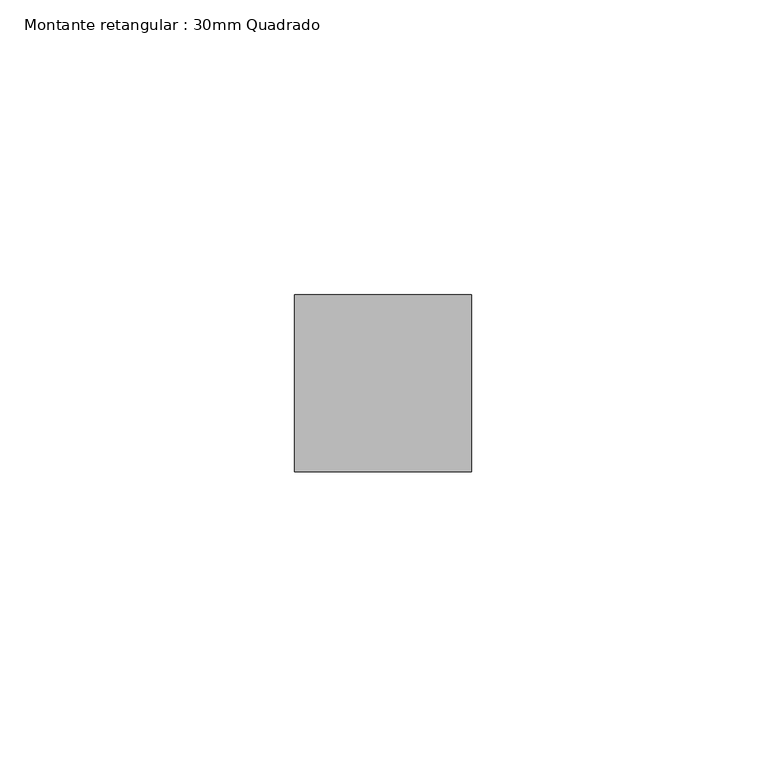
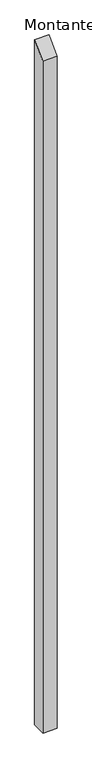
"""IFC4 building model written with IfcOpenShell, lengths in millimetres: member geometry, Montante retangular : 30mm Quadrado."""

from ifc_helpers import new_model, si_unit, frame, origin, place, context, project, spatial, polyline, outline, extrude, source, transform, mapped, element, save


def montante_retangular_30mm_quadrado_dc4da2e6(model_context):
    return source(origin(), model_context, "Body", "SweptSolid", [
        extrude(outline(polyline([(-15.0, -15.0), (15.0, 15.0), (15.0, -1515.0000003), (-15.0, -1515.0000003), (-15.0, -15.0)])), frame((-30.0, 0.0, 0.0), z_axis=(1.0, 0.0, 0.0), x_axis=(0.0, 1.0, 0.0)), (0.0, 0.0, 1.0), 30.0),
    ])


if __name__ == "__main__":
    model = new_model("IFC4")
    model_context = context("Model", 3, world=origin())
    ifc_project = project(units=[si_unit("LENGTHUNIT", "METRE", prefix="MILLI")], contexts=[model_context])
    site = spatial("IfcSite", under=ifc_project)
    building = spatial("IfcBuilding", under=site)
    placement = place(None, origin())
    montante_retangular_30mm_quadrado_shape = montante_retangular_30mm_quadrado_dc4da2e6(model_context)
    element("IfcMember", 1, ObjectType="Montante retangular : 30mm Quadrado", at=placement, inside=building, context=model_context, shape_type="MappedRepresentation", body=[
        mapped(montante_retangular_30mm_quadrado_shape, transform((0.0, 0.0, 0.0), x_axis=(1.0, 0.0, 0.0), y_axis=(0.0, 1.0, 0.0), z_axis=(0.0, 0.0, 1.0))),
    ])
    save(model, "model.ifc")
